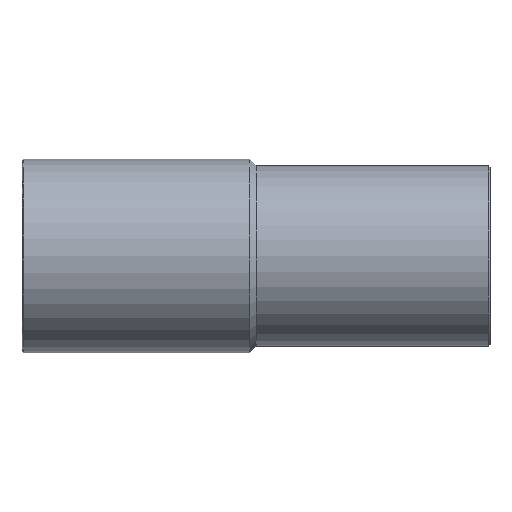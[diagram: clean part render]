
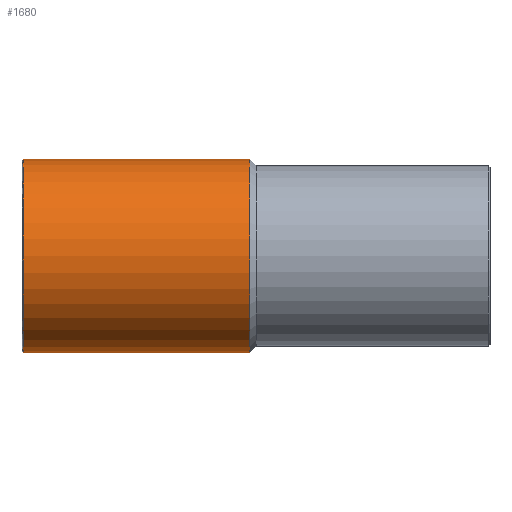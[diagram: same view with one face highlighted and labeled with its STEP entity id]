
A CAD part, top view. The second image highlights one B-rep face of the part: STEP entity #1680.
In plain terms, the highlighted cylindrical face has radius 47.5 mm (diameter 95 mm), a partial arc.
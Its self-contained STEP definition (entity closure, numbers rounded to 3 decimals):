
#1140=CARTESIAN_POINT('',(-202.949,111.524,0.));
#1150=VERTEX_POINT('',#1140);
#1230=CARTESIAN_POINT('',(-202.949,16.524,
0.));
#1240=VERTEX_POINT('',#1230);
#1270=CARTESIAN_POINT('',(-202.949,64.024,0.));
#1280=DIRECTION('',(-1.,0.,0.));
#1290=DIRECTION('',(0.,1.,0.));
#1300=AXIS2_PLACEMENT_3D('',#1270,#1280,#1290);
#1310=CIRCLE('',#1300,47.5);
#1320=EDGE_CURVE('',#1240,#1150,#1310,.T.);
#1370=CARTESIAN_POINT('',(-258.674,64.024,0.));
#1380=DIRECTION('',(1.,0.,0.));
#1390=DIRECTION('',(0.,-1.,0.));
#1400=AXIS2_PLACEMENT_3D('',#1370,#1380,#1390);
#1410=CYLINDRICAL_SURFACE('',#1400,47.5);
#1420=CARTESIAN_POINT('',(-258.674,111.524,
0.));
#1430=DIRECTION('',(1.,0.,0.));
#1440=VECTOR('',#1430,1.);
#1450=LINE('',#1420,#1440);
#1460=CARTESIAN_POINT('',(-314.399,111.524,
0.));
#1470=VERTEX_POINT('',#1460);
#1480=EDGE_CURVE('',#1470,#1150,#1450,.T.);
#1490=ORIENTED_EDGE('',*,*,#1480,.F.);
#1500=ORIENTED_EDGE('',*,*,#1320,.T.);
#1510=CARTESIAN_POINT('',(-258.674,16.524,0.));
#1520=DIRECTION('',(1.,0.,0.));
#1530=VECTOR('',#1520,1.);
#1540=LINE('',#1510,#1530);
#1550=CARTESIAN_POINT('',(-314.399,16.524,0.));
#1560=VERTEX_POINT('',#1550);
#1570=EDGE_CURVE('',#1560,#1240,#1540,.T.);
#1580=ORIENTED_EDGE('',*,*,#1570,.T.);
#1590=CARTESIAN_POINT('',(-314.399,64.024,0.));
#1600=DIRECTION('',(-1.,0.,0.));
#1610=DIRECTION('',(0.,1.,0.));
#1620=AXIS2_PLACEMENT_3D('',#1590,#1600,#1610);
#1630=CIRCLE('',#1620,47.5);
#1640=EDGE_CURVE('',#1560,#1470,#1630,.T.);
#1650=ORIENTED_EDGE('',*,*,#1640,.F.);
#1660=EDGE_LOOP('',(#1650,#1580,#1500,#1490));
#1670=FACE_OUTER_BOUND('',#1660,.T.);
#1680=ADVANCED_FACE('',(#1670),#1410,.T.);
